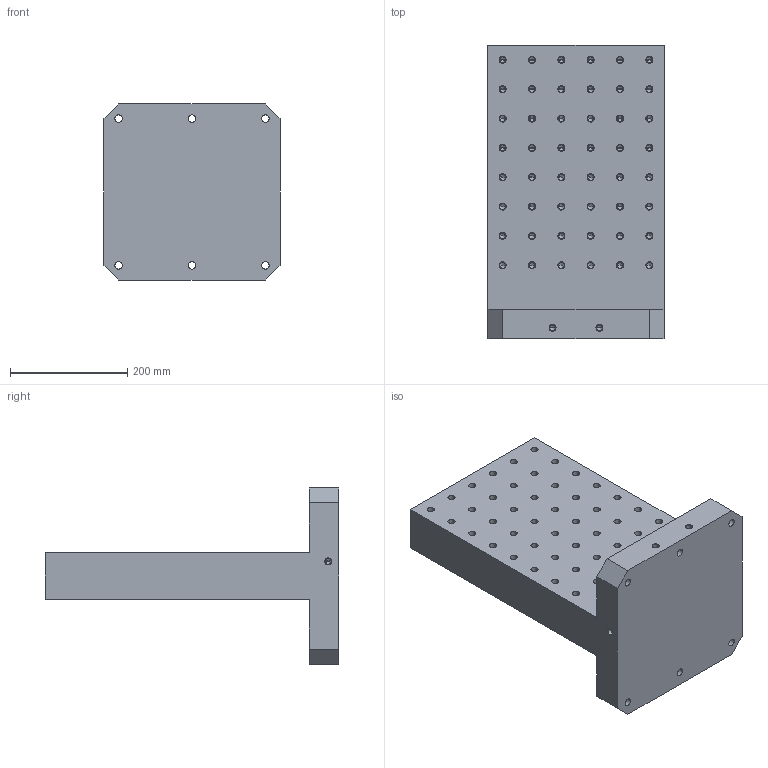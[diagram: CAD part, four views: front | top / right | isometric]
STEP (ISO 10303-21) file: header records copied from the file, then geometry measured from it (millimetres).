
FILE_DESCRIPTION((''),'2;1');
FILE_NAME('FG_WH_TOMB_RCGRDNP001','2026-05-20T14:58:37',('Admin'),(''),'CREO PARAMETRIC BY PTC INC, 2025010','CREO PARAMETRIC BY PTC INC, 2025010','');
FILE_SCHEMA(('CONFIG_CONTROL_DESIGN'));
Length unit declared in the file: millimetre
Products named in the file (1): FG_WH_TOMB_RCGRDNP001
Bounding box: 300 x 500 x 300 mm (x, y, z)
Volume: 14873250.9 mm3; surface area: 794928 mm2
Topology: 1 solids, 101 shells, 1032 faces, 2484 edges, 1556 vertices
Faces by surface type: cylinder 616, plane 216, cone 200
Entity records: 29171 total; most frequent: DIRECTION 5782, CARTESIAN_POINT 4873, ORIENTED_EDGE 4168, AXIS2_PLACEMENT_3D 2465, EDGE_CURVE 2284, VERTEX_POINT 1556, CIRCLE 1432, EDGE_LOOP 1346
